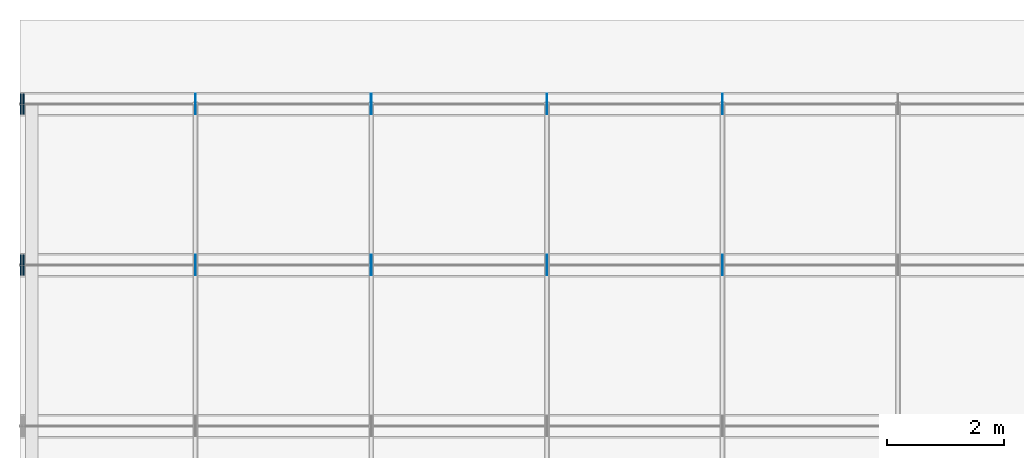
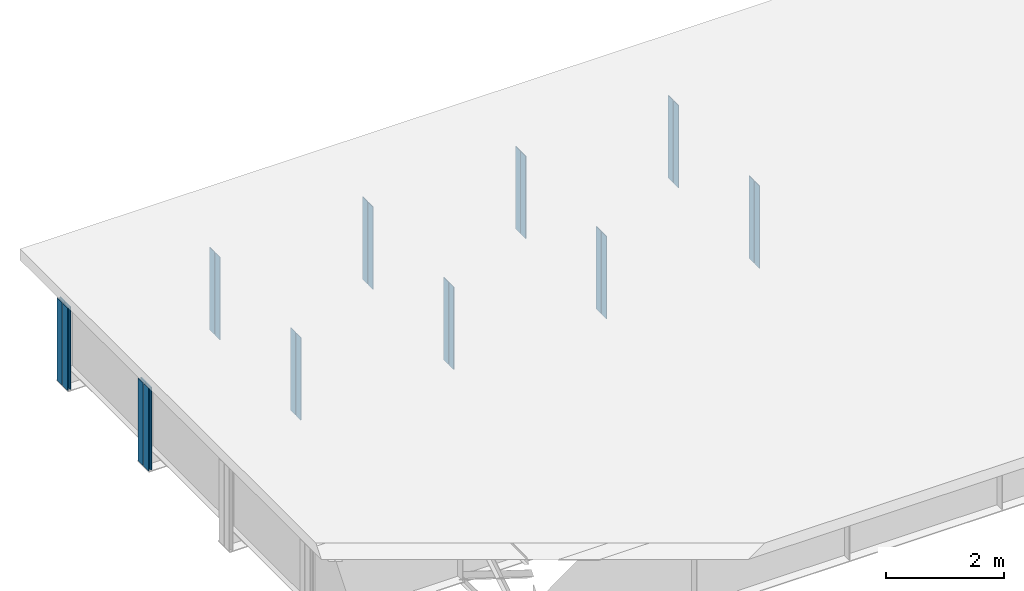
# One storey, part 11 of 17: 24 plates.
"""IFC4 building model written with IfcOpenShell, lengths in metres."""

from ifc_helpers import new_model, si_unit, frame, origin, origin_with_axes, origin_2d_with_axis, place, context, subcontext, project, spatial, rectangle, extrude, element, save


model = new_model("IFC4")

# Units and contexts
model_context = context("Model", 3, precision=1e-05, world=origin())
body_context = subcontext(model_context, "Body", "Model", "MODEL_VIEW")
ifc_project = project(units=[si_unit("LENGTHUNIT", "METRE"), si_unit("AREAUNIT", "SQUARE_METRE"), si_unit("VOLUMEUNIT", "CUBIC_METRE"), si_unit("PLANEANGLEUNIT", "RADIAN")], contexts=[model_context])

# Site, building, storey
site_placement = place(None, origin_with_axes())
site = spatial("IfcSite", under=ifc_project, at=site_placement, Name="Default Site")
building_placement = place(site_placement, origin_with_axes())
building = spatial("IfcBuilding", under=site, at=building_placement, Name="Bridge Structure")
storey_placement = place(building_placement, origin_with_axes())
storey = spatial("IfcBuildingStorey", under=building, at=storey_placement, Name="Superstructure")

# Plates
for number, where, z_axis, x_axis, name in (
    (1, (3.0, 2.841, -0.857), (0.0, 0.0, 1.0), (1.0, 0.0, 0.0), "Intermediate Stiffener 4"),
    (2, (3.0, 2.6590000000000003, -0.857), (0.0, 0.0, 1.0), (1.0, 0.0, 0.0), "Intermediate Stiffener 4"),
    (3, (6.0, 2.841, -0.857), (0.0, 0.0, 1.0), (1.0, 0.0, 0.0), "Intermediate Stiffener 4"),
    (4, (6.0, 2.6590000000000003, -0.857), (0.0, 0.0, 1.0), (1.0, 0.0, 0.0), "Intermediate Stiffener 4"),
    (5, (9.0, 2.841, -0.857), (0.0, 0.0, 1.0), (1.0, 0.0, 0.0), "Intermediate Stiffener 4"),
    (6, (9.0, 2.6590000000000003, -0.857), (0.0, 0.0, 1.0), (1.0, 0.0, 0.0), "Intermediate Stiffener 4"),
    (7, (12.0, 2.841, -0.857), (0.0, 0.0, 1.0), (1.0, 0.0, 0.0), "Intermediate Stiffener 4"),
    (8, (12.0, 2.6590000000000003, -0.857), (0.0, 0.0, 1.0), (1.0, 0.0, 0.0), "Intermediate Stiffener 4"),
):
    element("IfcPlate", number, at=place(storey_placement, frame(where, z_axis=z_axis, x_axis=x_axis)), inside=storey, Name=name, context=body_context, shape_type="SweptSolid", body=[
        extrude(rectangle(XDim=0.012, YDim=0.168, at=origin_2d_with_axis()), origin_with_axes(), (0.0, 0.0, 1.0), 1.714),
    ])
for number, where, z_axis, x_axis, name in (
    (9, (0.01, 2.841, -0.857), (0.0, 0.0, 1.0), (1.0, 0.0, 0.0), "End Stiffener 4"),
    (10, (0.01, 2.6590000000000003, -0.857), (0.0, 0.0, 1.0), (1.0, 0.0, 0.0), "End Stiffener 4"),
    (11, (0.06, 2.841, -0.857), (0.0, 0.0, 1.0), (1.0, 0.0, 0.0), "End Stiffener 4"),
    (12, (0.06, 2.6590000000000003, -0.857), (0.0, 0.0, 1.0), (1.0, 0.0, 0.0), "End Stiffener 4"),
):
    element("IfcPlate", number, at=place(storey_placement, frame(where, z_axis=z_axis, x_axis=x_axis)), inside=storey, Name=name, context=body_context, shape_type="SweptSolid", body=[
        extrude(rectangle(XDim=0.02, YDim=0.168, at=origin_2d_with_axis()), origin_with_axes(), (0.0, 0.0, 1.0), 1.714),
    ])
for number, where, z_axis, x_axis, name in (
    (13, (3.0, 5.591, -0.857), (0.0, 0.0, 1.0), (1.0, 0.0, 0.0), "Intermediate Stiffener 5"),
    (14, (3.0, 5.409, -0.857), (0.0, 0.0, 1.0), (1.0, 0.0, 0.0), "Intermediate Stiffener 5"),
    (15, (6.0, 5.591, -0.857), (0.0, 0.0, 1.0), (1.0, 0.0, 0.0), "Intermediate Stiffener 5"),
    (16, (6.0, 5.409, -0.857), (0.0, 0.0, 1.0), (1.0, 0.0, 0.0), "Intermediate Stiffener 5"),
    (17, (9.0, 5.591, -0.857), (0.0, 0.0, 1.0), (1.0, 0.0, 0.0), "Intermediate Stiffener 5"),
    (18, (9.0, 5.409, -0.857), (0.0, 0.0, 1.0), (1.0, 0.0, 0.0), "Intermediate Stiffener 5"),
    (19, (12.0, 5.591, -0.857), (0.0, 0.0, 1.0), (1.0, 0.0, 0.0), "Intermediate Stiffener 5"),
    (20, (12.0, 5.409, -0.857), (0.0, 0.0, 1.0), (1.0, 0.0, 0.0), "Intermediate Stiffener 5"),
):
    element("IfcPlate", number, at=place(storey_placement, frame(where, z_axis=z_axis, x_axis=x_axis)), inside=storey, Name=name, context=body_context, shape_type="SweptSolid", body=[
        extrude(rectangle(XDim=0.012, YDim=0.168, at=origin_2d_with_axis()), origin_with_axes(), (0.0, 0.0, 1.0), 1.714),
    ])
for number, where, z_axis, x_axis, name in (
    (21, (0.01, 5.591, -0.857), (0.0, 0.0, 1.0), (1.0, 0.0, 0.0), "End Stiffener 5"),
    (22, (0.01, 5.409, -0.857), (0.0, 0.0, 1.0), (1.0, 0.0, 0.0), "End Stiffener 5"),
    (23, (0.06, 5.591, -0.857), (0.0, 0.0, 1.0), (1.0, 0.0, 0.0), "End Stiffener 5"),
    (24, (0.06, 5.409, -0.857), (0.0, 0.0, 1.0), (1.0, 0.0, 0.0), "End Stiffener 5"),
):
    element("IfcPlate", number, at=place(storey_placement, frame(where, z_axis=z_axis, x_axis=x_axis)), inside=storey, Name=name, context=body_context, shape_type="SweptSolid", body=[
        extrude(rectangle(XDim=0.02, YDim=0.168, at=origin_2d_with_axis()), origin_with_axes(), (0.0, 0.0, 1.0), 1.714),
    ])

save(model, "model.ifc")
